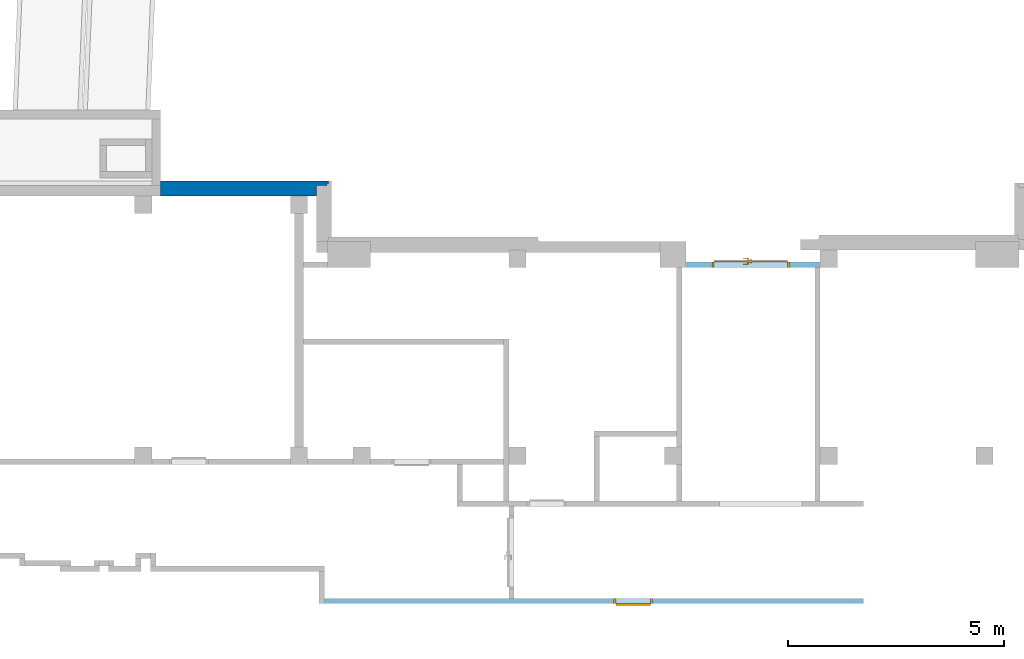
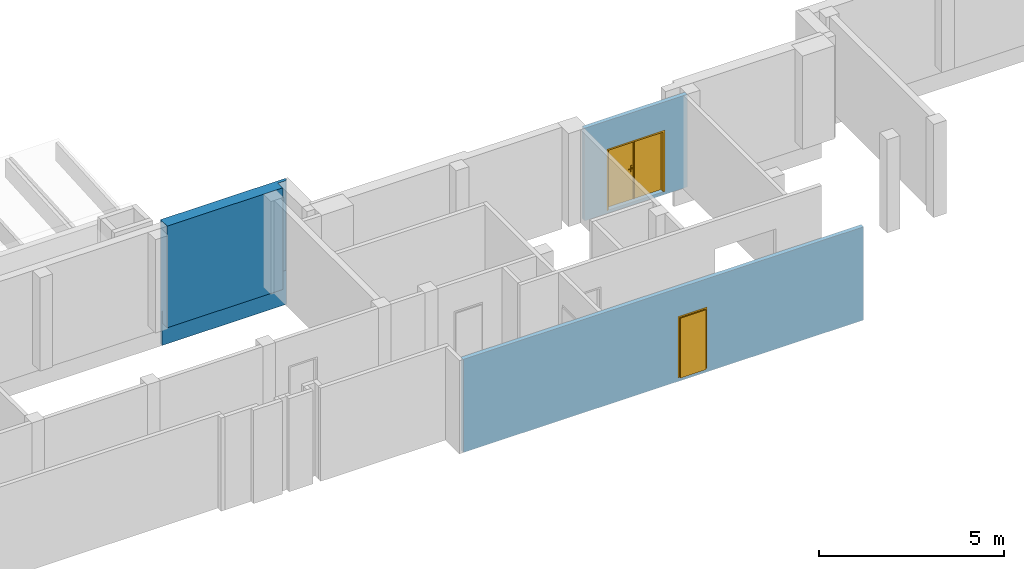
# One storey, part 6 of 6: 2 doors, 1 wall, 2 openings, plus 2 elements that do not belong to this part.
"""IFC4 building model written with IfcOpenShell, lengths in metres."""

from ifc_helpers import new_model, entity, si_unit, converted_unit, derived_unit, frame, frame_2d, origin, origin_with_axes, place, context, subcontext, project, spatial, polyline, rectangle, outline, extrude, closed_shell, open_shell, faceted_brep, surface_model, source, transform, mapped, material, layer, layer_set, layer_usage, type_object, element, fill, save


model = new_model("IFC4")

# Units and contexts
model_context = context("Model", 3, precision=1e-05, world=origin())
body_context = subcontext(model_context, "Body", "Model", "MODEL_VIEW")
ifc_project = project(units=[si_unit("LENGTHUNIT", "METRE"), si_unit("AREAUNIT", "SQUARE_METRE"), si_unit("VOLUMEUNIT", "CUBIC_METRE"), si_unit("MASSUNIT", "GRAM", prefix="KILO"), converted_unit("PLANEANGLEUNIT", "DEGREE", entity("IfcPlaneAngleMeasure", 0.0174532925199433), si_unit("PLANEANGLEUNIT", "RADIAN"), dimensions=[0, 0, 0, 0, 0, 0, 0]), derived_unit("THERMALTRANSMITTANCEUNIT", [(si_unit("POWERUNIT", "WATT"), 1), (si_unit("THERMODYNAMICTEMPERATUREUNIT", "KELVIN"), -1), (si_unit("LENGTHUNIT", "METRE"), -2)]), derived_unit("VOLUMETRICFLOWRATEUNIT", [(si_unit("LENGTHUNIT", "METRE"), 3), (converted_unit("TIMEUNIT", "hour", entity("IfcTimeMeasure", 3600.0), si_unit("TIMEUNIT", "SECOND"), dimensions=[0, 0, 1, 0, 0, 0, 0]), -1), (si_unit("LENGTHUNIT", "METRE"), -1)])], contexts=[model_context])

# Site, building, storey
site_placement = place(None, origin())
site = spatial("IfcSite", under=ifc_project, at=site_placement, Name="3. ASŘ", CompositionType="ELEMENT")
building_placement = place(site_placement, origin())
building = spatial("IfcBuilding", under=site, at=building_placement, Name="Pavilon B", CompositionType="ELEMENT")
storey_placement = place(building_placement, frame((0.0, 0.0, -3.3)))
storey = spatial("IfcBuildingStorey", under=building, at=storey_placement, Name="Půdorys 1.PP", CompositionType="ELEMENT", Elevation=-3.3)

# Wall, opening, door
ifc_material_1 = material(Name="ZDIVO Z CDm")
ifc_layer_1 = layer(ifc_material_1, 0.125)
ifc_layer_set_1 = layer_set([ifc_layer_1])
ifc_layer_usage_1 = layer_usage(ifc_layer_set_1, "AXIS2", "POSITIVE", 0.0)
wall_1_placement = place(storey_placement, frame((40.65, -17.25, -0.1)))
wall_1 = element("IfcWall", 1, at=wall_1_placement, inside=storey, material=ifc_layer_usage_1, Name="ZDIVO Z CDm", context=body_context, shape_type="SweptSolid", body=[
    extrude(rectangle(XDim=3.2, YDim=0.125, at=frame_2d((1.6, 0.0625), x_axis=(1.0, 0.0))), origin_with_axes(), (0.0, 0.0, 1.0), 3.05),
])
opening_1_placement = place(wall_1_placement, frame((2.5, 0.125, 0.1), z_axis=(0.0, -1.0, 0.0), x_axis=(0.0, 0.0, 1.0)))
opening_1 = element("IfcOpeningElement", 2, at=opening_1_placement, cuts=wall_1, Name="Dveřní otvor", ObjectType="Opening", context=body_context, shape_type="SweptSolid", body=[
    extrude(outline(polyline([(0.0, 1.8), (2.02, 1.8), (2.02, 0.0), (0.0, 0.0), (0.0, 1.8)])), origin_with_axes(), (0.0, 0.0, 1.0), 0.125),
])
door_type_1 = type_object("IfcDoorType", Name="D401", OperationType="NOTDEFINED", ParameterTakesPrecedence=False, PredefinedType="DOOR")
shared_shape_1 = source(origin_with_axes(), body_context, "Body", "SurfaceModel", [
    surface_model("IfcShellBasedSurfaceModel", [(0.0, 0.125, 2.02), (0.0, 0.125, -7.65404249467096e-18), (0.05, 0.125, -7.65404249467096e-18), (0.05, 0.125, 2.02), (0.0, 0.0, 7.65404249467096e-18), (0.0, 2.41584530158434e-16, 2.02), (0.05, 2.41584530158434e-16, 2.02), (0.05, 0.0, 7.65404249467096e-18)], [closed_shell([[[0, 1, 2, 3]], [[4, 5, 6, 7]], [[1, 0, 5, 4]], [[2, 1, 4, 7]], [[3, 2, 7, 6]], [[0, 3, 6, 5]]], orient=[[False], [False], [False], [False], [False], [False]])]),
    surface_model("IfcShellBasedSurfaceModel", [(1.75, 0.125, 2.02), (1.75, 0.125, -7.65404249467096e-18), (1.8, 0.125, -7.65404249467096e-18), (1.8, 0.125, 2.02), (1.75, 0.0, 7.65404249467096e-18), (1.75, 2.41584530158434e-16, 2.02), (1.8, 2.41584530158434e-16, 2.02), (1.8, 0.0, 7.65404249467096e-18)], [closed_shell([[[0, 1, 2, 3]], [[4, 5, 6, 7]], [[1, 0, 5, 4]], [[2, 1, 4, 7]], [[3, 2, 7, 6]], [[0, 3, 6, 5]]], orient=[[False], [False], [False], [False], [False], [False]])]),
    surface_model("IfcShellBasedSurfaceModel", [(0.05, 0.125, 2.02), (0.05, 0.125, 1.97), (1.75, 0.125, 1.97), (1.75, 0.125, 2.02), (0.05, 2.41584530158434e-16, 1.97), (0.05, 2.41584530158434e-16, 2.02), (1.75, 2.41584530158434e-16, 2.02), (1.75, 2.41584530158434e-16, 1.97)], [closed_shell([[[0, 1, 2, 3]], [[4, 5, 6, 7]], [[1, 0, 5, 4]], [[2, 1, 4, 7]], [[3, 2, 7, 6]], [[0, 3, 6, 5]]], orient=[[False], [False], [False], [False], [False], [False]])]),
    surface_model("IfcShellBasedSurfaceModel", [(0.05, 0.165, 1.97), (0.05, 0.165, -1.25526296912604e-17), (0.8995, 0.165, -1.25526296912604e-17), (0.8995, 0.165, 1.97), (0.05, 0.125, -7.65404249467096e-18), (0.05, 0.125, 1.97), (0.8995, 0.125, 1.97), (0.8995, 0.125, -7.65404249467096e-18)], [closed_shell([[[0, 1, 2, 3]], [[4, 5, 6, 7]], [[1, 0, 5, 4]], [[2, 1, 4, 7]], [[3, 2, 7, 6]], [[0, 3, 6, 5]]], orient=[[False], [False], [False], [False], [False], [False]])]),
    surface_model("IfcShellBasedSurfaceModel", [(0.8795, 0.165, 1.97), (0.9195, 0.165, 1.97), (0.9195, 0.165, -1.25526296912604e-17), (0.8795, 0.165, -1.25526296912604e-17), (0.8795, 0.185, -1.50019232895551e-17), (0.9195, 0.185, -1.50019232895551e-17), (0.9195, 0.185, 1.97), (0.8795, 0.185, 1.97)], [closed_shell([[[0, 1, 2, 3]], [[4, 5, 6, 7]], [[3, 4, 7, 0]], [[2, 5, 4, 3]], [[1, 6, 5, 2]], [[0, 7, 6, 1]]], orient=[[False], [False], [False], [False], [False], [False]])]),
    surface_model("IfcShellBasedSurfaceModel", [(0.8095, 0.125, 1.125), (0.8095, 0.125, 0.91), (0.8595, 0.125, 0.91), (0.8595, 0.125, 1.125), (0.8095, 0.115, 0.91), (0.8095, 0.115, 1.125), (0.8595, 0.115, 1.125), (0.8595, 0.115, 0.91)], [closed_shell([[[0, 1, 2, 3]], [[4, 5, 6, 7]], [[1, 0, 5, 4]], [[2, 1, 4, 7]], [[3, 2, 7, 6]], [[0, 3, 6, 5]]], orient=[[False], [False], [False], [False], [False], [False]])]),
    surface_model("IfcShellBasedSurfaceModel", [(0.8345, 0.115, 1.06), (0.8295, 0.115, 1.05866025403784), (0.825839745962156, 0.115, 1.055), (0.8245, 0.115, 1.05), (0.825839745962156, 0.115, 1.045), (0.8295, 0.115, 1.04133974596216), (0.8345, 0.115, 1.04), (0.8395, 0.115, 1.04133974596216), (0.843160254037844, 0.115, 1.045), (0.8445, 0.115, 1.05), (0.843160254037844, 0.115, 1.055), (0.8395, 0.115, 1.05866025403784), (0.8395, 0.0700000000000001, 1.05866025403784), (0.8345, 0.0750000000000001, 1.06), (0.843160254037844, 0.0663397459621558, 1.055), (0.8445, 0.0650000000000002, 1.05), (0.843160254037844, 0.0663397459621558, 1.045), (0.8395, 0.0700000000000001, 1.04133974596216), (0.8345, 0.0750000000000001, 1.04), (0.8295, 0.0800000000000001, 1.04133974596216), (0.825839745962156, 0.0836602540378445, 1.045), (0.8245, 0.0850000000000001, 1.05), (0.825839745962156, 0.0836602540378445, 1.055), (0.8295, 0.0800000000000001, 1.05866025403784), (0.7195, 0.0700000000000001, 1.05866025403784), (0.7195, 0.0750000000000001, 1.06), (0.7195, 0.0663397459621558, 1.055), (0.7195, 0.0650000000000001, 1.05), (0.7195, 0.0663397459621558, 1.045), (0.7195, 0.0700000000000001, 1.04133974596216), (0.7195, 0.0750000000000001, 1.04), (0.7195, 0.0800000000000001, 1.04133974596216), (0.7195, 0.0836602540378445, 1.045), (0.7195, 0.0850000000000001, 1.05), (0.7195, 0.0836602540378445, 1.055), (0.7195, 0.0800000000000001, 1.05866025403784)], [open_shell([[[0, 1, 2, 3, 4, 5, 6, 7, 8, 9, 10, 11]], [[0, 11, 12, 13]], [[11, 10, 14, 12]], [[10, 9, 15, 14]], [[9, 8, 16, 15]], [[8, 7, 17, 16]], [[7, 6, 18, 17]], [[6, 5, 19, 18]], [[5, 4, 20, 19]], [[4, 3, 21, 20]], [[3, 2, 22, 21]], [[2, 1, 23, 22]], [[1, 0, 13, 23]], [[13, 12, 24, 25]], [[12, 14, 26, 24]], [[14, 15, 27, 26]], [[15, 16, 28, 27]], [[16, 17, 29, 28]], [[17, 18, 30, 29]], [[18, 19, 31, 30]], [[19, 20, 32, 31]], [[20, 21, 33, 32]], [[21, 22, 34, 33]], [[22, 23, 35, 34]], [[23, 13, 25, 35]]], orient=[[False], [False], [False], [False], [False], [False], [False], [False], [False], [False], [False], [False], [False], [False], [False], [False], [False], [False], [False], [False], [False], [False], [False], [False], [False]])]),
    surface_model("IfcShellBasedSurfaceModel", [(0.8095, 0.165, 1.125), (0.8595, 0.165, 1.125), (0.8595, 0.165, 0.91), (0.8095, 0.165, 0.91), (0.8095, 0.175, 0.91), (0.8595, 0.175, 0.91), (0.8595, 0.175, 1.125), (0.8095, 0.175, 1.125)], [closed_shell([[[0, 1, 2, 3]], [[4, 5, 6, 7]], [[3, 4, 7, 0]], [[2, 5, 4, 3]], [[1, 6, 5, 2]], [[0, 7, 6, 1]]], orient=[[False], [False], [False], [False], [False], [False]])]),
    surface_model("IfcShellBasedSurfaceModel", [(0.8345, 0.175, 1.06), (0.8395, 0.175, 1.05866025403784), (0.843160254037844, 0.175, 1.055), (0.8445, 0.175, 1.05), (0.843160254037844, 0.175, 1.045), (0.8395, 0.175, 1.04133974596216), (0.8345, 0.175, 1.04), (0.8295, 0.175, 1.04133974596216), (0.825839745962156, 0.175, 1.045), (0.8245, 0.175, 1.05), (0.825839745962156, 0.175, 1.055), (0.8295, 0.175, 1.05866025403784), (0.8345, 0.215, 1.06), (0.8395, 0.22, 1.05866025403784), (0.843160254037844, 0.223660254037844, 1.055), (0.8445, 0.225, 1.05), (0.843160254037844, 0.223660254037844, 1.045), (0.8395, 0.22, 1.04133974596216), (0.8345, 0.215, 1.04), (0.8295, 0.21, 1.04133974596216), (0.825839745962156, 0.206339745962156, 1.045), (0.8245, 0.205, 1.05), (0.825839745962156, 0.206339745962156, 1.055), (0.8295, 0.21, 1.05866025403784), (0.7195, 0.215, 1.06), (0.7195, 0.22, 1.05866025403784), (0.7195, 0.223660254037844, 1.055), (0.7195, 0.225, 1.05), (0.7195, 0.223660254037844, 1.045), (0.7195, 0.22, 1.04133974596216), (0.7195, 0.215, 1.04), (0.7195, 0.21, 1.04133974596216), (0.7195, 0.206339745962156, 1.045), (0.7195, 0.205, 1.05), (0.7195, 0.206339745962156, 1.055), (0.7195, 0.21, 1.05866025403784)], [open_shell([[[0, 1, 2, 3, 4, 5, 6, 7, 8, 9, 10, 11]], [[0, 12, 13, 1]], [[1, 13, 14, 2]], [[2, 14, 15, 3]], [[3, 15, 16, 4]], [[4, 16, 17, 5]], [[5, 17, 18, 6]], [[6, 18, 19, 7]], [[7, 19, 20, 8]], [[8, 20, 21, 9]], [[9, 21, 22, 10]], [[10, 22, 23, 11]], [[11, 23, 12, 0]], [[12, 24, 25, 13]], [[13, 25, 26, 14]], [[14, 26, 27, 15]], [[15, 27, 28, 16]], [[16, 28, 29, 17]], [[17, 29, 30, 18]], [[18, 30, 31, 19]], [[19, 31, 32, 20]], [[20, 32, 33, 21]], [[21, 33, 34, 22]], [[22, 34, 35, 23]], [[23, 35, 24, 12]]], orient=[[False], [False], [False], [False], [False], [False], [False], [False], [False], [False], [False], [False], [False], [False], [False], [False], [False], [False], [False], [False], [False], [False], [False], [False], [False]])]),
    surface_model("IfcShellBasedSurfaceModel", [(0.9005, 0.165, 1.97), (0.9005, 0.165, -1.25526296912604e-17), (1.75, 0.165, -1.25526296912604e-17), (1.75, 0.165, 1.97), (0.9005, 0.125, -7.65404249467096e-18), (0.9005, 0.125, 1.97), (1.75, 0.125, 1.97), (1.75, 0.125, -7.65404249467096e-18)], [closed_shell([[[0, 1, 2, 3]], [[4, 5, 6, 7]], [[1, 0, 5, 4]], [[2, 1, 4, 7]], [[3, 2, 7, 6]], [[0, 3, 6, 5]]], orient=[[False], [False], [False], [False], [False], [False]])]),
    surface_model("IfcShellBasedSurfaceModel", [(0.8805, 0.125, 1.97), (0.8805, 0.125, -7.65404249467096e-18), (0.9205, 0.125, -7.65404249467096e-18), (0.9205, 0.125, 1.97), (0.8805, 0.105, -5.20474889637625e-18), (0.8805, 0.105, 1.97), (0.9205, 0.105, 1.97), (0.9205, 0.105, -5.20474889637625e-18)], [closed_shell([[[0, 1, 2, 3]], [[4, 5, 6, 7]], [[1, 0, 5, 4]], [[2, 1, 4, 7]], [[3, 2, 7, 6]], [[0, 3, 6, 5]]], orient=[[False], [False], [False], [False], [False], [False]])]),
])
door_1_placement = place(opening_1_placement, frame((0.0, 1.8, 0.125), z_axis=(1.0, 0.0, 0.0), x_axis=(0.0, -1.0, 2.44929359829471e-16)))
door_1 = element("IfcDoor", 3, at=door_1_placement, inside=storey, type_object=door_type_1, Name="D401", OverallHeight=2.02, OverallWidth=1.8, context=body_context, shape_type="MappedRepresentation", body=[
    mapped(shared_shape_1, transform((0.0, 0.0, 0.0), x_axis=(1.0, 0.0, 0.0), y_axis=(0.0, 1.0, 0.0), z_axis=(0.0, 0.0, 1.0), scale=1.0)),
])
fill(opening_1, door_1)

# Wall
ifc_material_2 = material(Name="ZELEZOBETONOVÁ KCE")
wall_2_placement = place(storey_placement, frame((28.5974760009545, -15.6, -1.15)))
element("IfcWall", 4, at=wall_2_placement, inside=storey, material=ifc_material_2, Name="ZELEZOBETONOVÁ KCE", context=body_context, shape_type="Brep", body=[
    faceted_brep([(3.60252399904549, 0.0, 0.750000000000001), (0.0, 0.0, 0.750000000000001), (0.0, 0.0, 4.1), (3.60252399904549, 0.0, 4.1), (0.0, 0.354999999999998, 4.1), (3.87752399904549, 0.354999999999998, 4.1), (3.87752399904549, 0.274999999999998, 4.1), (3.85252399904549, 0.274999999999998, 4.1), (3.85252399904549, 0.249999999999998, 4.1), (3.60252399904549, 0.25, 4.1), (0.0, 0.25, 0.750000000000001), (3.60252399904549, 0.25, 0.750000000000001), (3.60252399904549, 0.25, 1.15), (0.0, 0.25, 1.15), (0.0, 0.274999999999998, 1.15), (0.0, 0.274999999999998, 0.0), (0.0, 0.354999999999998, 0.0), (0.0, 0.354999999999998, 2.21), (0.0, 0.25, 2.21), (0.0, 0.25, 3.47), (0.0, 0.354999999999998, 3.47), (0.000710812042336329, 0.249999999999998, 2.21), (0.000710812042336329, 0.249999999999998, 3.47), (0.000710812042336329, 0.354999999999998, 3.47), (0.000710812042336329, 0.354999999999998, 2.21), (3.87752399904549, 0.354999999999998, 0.0), (3.87752399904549, 0.274999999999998, 0.0), (3.85252399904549, 0.274999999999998, 1.15), (3.85252399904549, 0.249999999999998, 1.15)], [[[0, 1, 2, 3]], [[2, 4, 5, 6, 7, 8, 9, 3]], [[10, 1, 0, 11]], [[12, 11, 0, 3, 9]], [[1, 10, 13, 14, 15, 16, 17, 18, 19, 20, 4, 2]], [[10, 11, 12, 13]], [[19, 18, 21, 22]], [[23, 24, 17, 16, 25, 5, 4, 20]], [[25, 26, 6, 5]], [[6, 26, 15, 14, 27, 7]], [[16, 15, 26, 25]], [[19, 22, 23, 20]], [[21, 18, 17, 24]], [[22, 21, 24, 23]], [[27, 28, 8, 7]], [[8, 28, 12, 9]], [[14, 13, 12, 28, 27]]], orient=[[False], [False], [False], [False], [False], [False], [False], [False], [False], [False], [False], [False], [False], [False], [False], [False], [False]]),
])

# Wall, opening, door
ifc_material_3 = material(Name="ZDIVO Z CDm")
ifc_layer_2 = layer(ifc_material_3, 0.125)
ifc_layer_set_2 = layer_set([ifc_layer_2])
ifc_layer_usage_2 = layer_usage(ifc_layer_set_2, "AXIS2", "POSITIVE", 0.0)
wall_3_placement = place(storey_placement, frame((44.85, -24.9, -0.12), z_axis=(0.0, 0.0, 1.0), x_axis=(-1.0, 0.0, 0.0)))
wall_3 = element("IfcWall", 5, at=wall_3_placement, inside=storey, material=ifc_layer_usage_2, Name="ZDIVO Z CDm", context=body_context, shape_type="SweptSolid", body=[
    extrude(rectangle(XDim=12.465, YDim=0.125, at=frame_2d((6.2325, 0.0625), x_axis=(1.0, 0.0))), origin_with_axes(), (0.0, 0.0, 1.0), 3.07),
])
opening_2_placement = place(wall_3_placement, frame((4.875, 0.0, 0.12), z_axis=(0.0, 1.0, 0.0), x_axis=(0.0, 0.0, 1.0)))
opening_2 = element("IfcOpeningElement", 6, at=opening_2_placement, cuts=wall_3, Name="Dveřní otvor", ObjectType="Opening", context=body_context, shape_type="SweptSolid", body=[
    extrude(outline(polyline([(0.0, 0.9), (2.02, 0.9), (2.02, 0.0), (0.0, 0.0), (0.0, 0.9)])), origin_with_axes(), (0.0, 0.0, 1.0), 0.125),
])
door_type_2 = type_object("IfcDoorType", Name="D401", OperationType="NOTDEFINED", ParameterTakesPrecedence=False, PredefinedType="DOOR")
shared_shape_2 = source(origin_with_axes(), body_context, "Body", "Brep", [
    faceted_brep([(0.0, 0.165, 2.02), (0.0, 0.165, -7.65404249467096e-18), (0.05, 0.165, -7.65404249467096e-18), (0.05, 0.165, 2.02), (0.0, 0.04, 7.65404249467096e-18), (0.0, 0.0400000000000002, 2.02), (0.05, 0.0400000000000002, 2.02), (0.05, 0.04, 7.65404249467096e-18)], [[[0, 1, 2, 3]], [[4, 5, 6, 7]], [[1, 0, 5, 4]], [[2, 1, 4, 7]], [[3, 2, 7, 6]], [[0, 3, 6, 5]]], orient=[[False], [False], [False], [False], [False], [False]]),
    faceted_brep([(0.85, 0.165, 2.02), (0.85, 0.165, -7.65404249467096e-18), (0.9, 0.165, -7.65404249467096e-18), (0.9, 0.165, 2.02), (0.85, 0.04, 7.65404249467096e-18), (0.85, 0.0400000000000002, 2.02), (0.9, 0.0400000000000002, 2.02), (0.9, 0.04, 7.65404249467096e-18)], [[[0, 1, 2, 3]], [[4, 5, 6, 7]], [[1, 0, 5, 4]], [[2, 1, 4, 7]], [[3, 2, 7, 6]], [[0, 3, 6, 5]]], orient=[[False], [False], [False], [False], [False], [False]]),
    faceted_brep([(0.05, 0.165, 2.02), (0.05, 0.165, 1.97), (0.85, 0.165, 1.97), (0.85, 0.165, 2.02), (0.05, 0.0400000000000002, 1.97), (0.05, 0.0400000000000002, 2.02), (0.85, 0.0400000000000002, 2.02), (0.85, 0.0400000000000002, 1.97)], [[[0, 1, 2, 3]], [[4, 5, 6, 7]], [[1, 0, 5, 4]], [[2, 1, 4, 7]], [[3, 2, 7, 6]], [[0, 3, 6, 5]]], orient=[[False], [False], [False], [False], [False], [False]]),
    faceted_brep([(0.05, 0.0400000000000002, 1.97), (0.05, 0.04, 7.65404249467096e-18), (0.85, 0.04, 7.65404249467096e-18), (0.85, 0.0400000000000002, 1.97), (0.05, 0.0, 1.25526296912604e-17), (0.05, 2.41584530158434e-16, 1.97), (0.85, 2.41584530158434e-16, 1.97), (0.85, 0.0, 1.25526296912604e-17)], [[[0, 1, 2, 3]], [[4, 5, 6, 7]], [[1, 0, 5, 4]], [[2, 1, 4, 7]], [[3, 2, 7, 6]], [[0, 3, 6, 5]]], orient=[[False], [False], [False], [False], [False], [False]]),
])
door_2_placement = place(opening_2_placement, frame((0.0, 0.0, 0.165), z_axis=(1.0, 0.0, 0.0), x_axis=(0.0, 1.0, -2.44929359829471e-16)))
door_2 = element("IfcDoor", 7, at=door_2_placement, inside=storey, type_object=door_type_2, Name="D401", OverallHeight=2.02, OverallWidth=0.9, context=body_context, shape_type="MappedRepresentation", body=[
    mapped(shared_shape_2, transform((0.0, 0.0, 0.0), x_axis=(1.0, 0.0, 0.0), y_axis=(0.0, -1.0, 0.0), z_axis=(0.0, 0.0, 1.0), scale=1.0)),
])
fill(opening_2, door_2)

save(model, "model.ifc")
